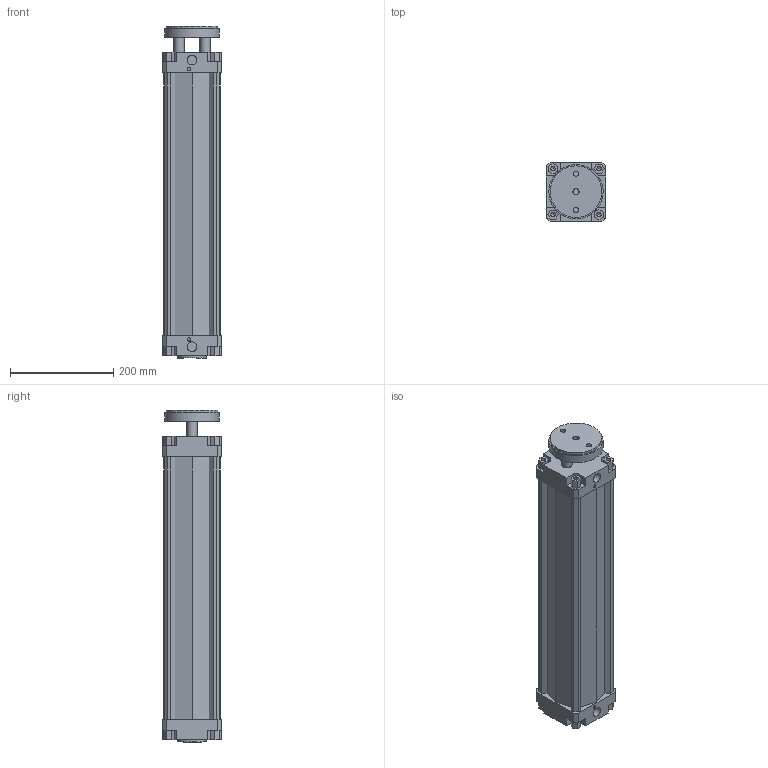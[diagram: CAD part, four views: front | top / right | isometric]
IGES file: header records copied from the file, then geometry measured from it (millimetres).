
Global section: file name: 132#_100_0450_01; native system: Autodesk Inventor 2014; preprocessor: unknown; author: A. Manieri; date: 20161006.163810; units: millimetre
Bounding box: 115 x 115 x 643 mm (x, y, z)
Volume: 3178958.9 mm3; surface area: 614840.7 mm2
Topology: 2 solids, 2 shells, 180 faces, 491 edges, 335 vertices
Faces by surface type: bspline 180
